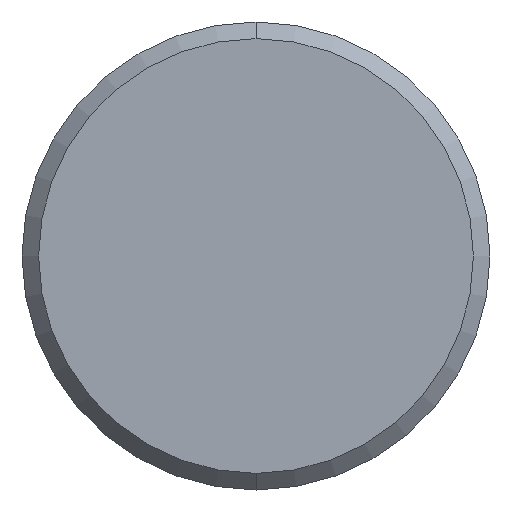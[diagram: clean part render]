
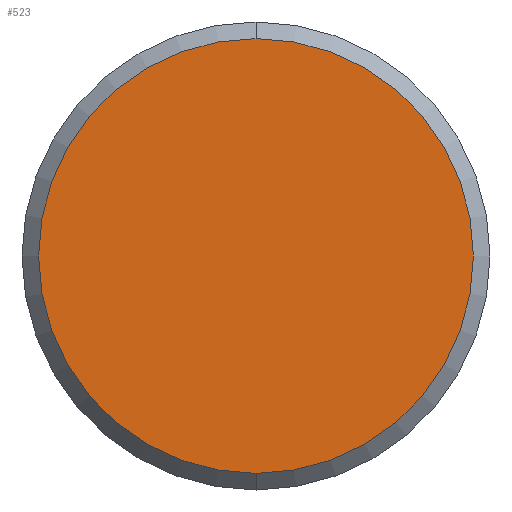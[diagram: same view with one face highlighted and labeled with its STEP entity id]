
A CAD part, front view. The second image highlights one B-rep face of the part: STEP entity #523.
In plain terms, the highlighted planar face has unit normal (0, -1, 0).
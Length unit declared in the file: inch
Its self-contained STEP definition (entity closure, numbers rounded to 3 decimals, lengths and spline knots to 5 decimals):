
#2 = AXIS2_PLACEMENT_3D ( 'NONE', #655, #653, #650 ) ;
#15 = AXIS2_PLACEMENT_3D ( 'NONE', #597, #592, #594 ) ;
#18 = AXIS2_PLACEMENT_3D ( 'NONE', #606, #579, #590 ) ;
#78 = EDGE_CURVE ( 'NONE', #210, #175, #291, .T. ) ;
#121 = EDGE_CURVE ( 'NONE', #175, #210, #775, .T. ) ;
#175 = VERTEX_POINT ( 'NONE', #616 ) ;
#210 = VERTEX_POINT ( 'NONE', #612 ) ;
#219 = EDGE_LOOP ( 'NONE', ( #765, #766 ) ) ;
#291 = CIRCLE ( 'NONE', #2, 0.8175 ) ;
#523 = ADVANCED_FACE ( 'NONE', ( #835 ), #622, .T. ) ;
#579 = DIRECTION ( 'NONE',  ( 0., -1., 0. ) ) ;
#590 = DIRECTION ( 'NONE',  ( 0., 0., -1. ) ) ;
#592 = DIRECTION ( 'NONE',  ( 0., 1., 0. ) ) ;
#594 = DIRECTION ( 'NONE',  ( 0., 0., 1. ) ) ;
#597 = CARTESIAN_POINT ( 'NONE',  ( -4.39077, -0.03938, 0. ) ) ;
#606 = CARTESIAN_POINT ( 'NONE',  ( -3.70677, -0.03938, 0. ) ) ;
#612 = CARTESIAN_POINT ( 'NONE',  ( -4.39077, -0.03938, 0.8175 ) ) ;
#616 = CARTESIAN_POINT ( 'NONE',  ( -4.39077, -0.03938, -0.8175 ) ) ;
#622 = PLANE ( 'NONE',  #18 ) ;
#650 = DIRECTION ( 'NONE',  ( 0., 0., 1. ) ) ;
#653 = DIRECTION ( 'NONE',  ( 0., 1., 0. ) ) ;
#655 = CARTESIAN_POINT ( 'NONE',  ( -4.39077, -0.03938, 0. ) ) ;
#765 = ORIENTED_EDGE ( 'NONE', *, *, #78, .F. ) ;
#766 = ORIENTED_EDGE ( 'NONE', *, *, #121, .F. ) ;
#775 = CIRCLE ( 'NONE', #15, 0.8175 ) ;
#835 = FACE_OUTER_BOUND ( 'NONE', #219, .T. ) ;
